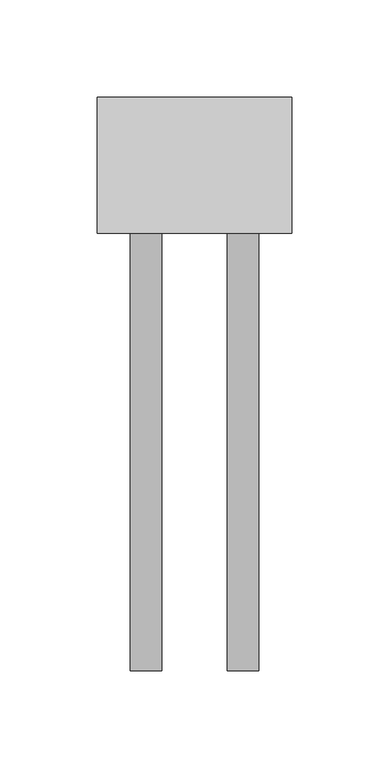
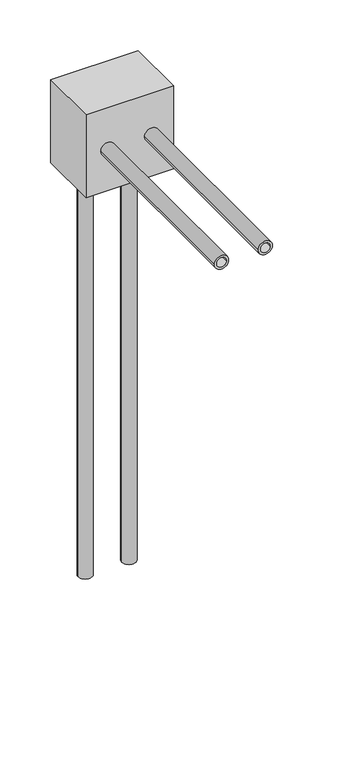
"""IFC4 building model written with IfcOpenShell, lengths in millimetres: pipe fitting geometry, RAUTITAN_Radiatorconnection box : RAUTITAN_Radiatorconnection box."""

from ifc_helpers import new_model, si_unit, point, frame, frame_2d, origin, origin_with_axes, place, context, project, spatial, polyline, circle_curve, trimmed, segment, composite_curve, outline, extrude, source, transform, mapped, element, save


def pipe_fitting_8ffa6d79(model_context):
    return source(origin(), model_context, "Body", "SweptSolid", [
        extrude(outline(composite_curve([segment(trimmed(circle_curve(frame_2d((540.0, 25.0)), 8.1), [point((540.0, 33.1))], [point((540.0, 16.9))], False, "CARTESIAN"), True, "CONTINUOUS"), segment(trimmed(circle_curve(frame_2d((540.0, 25.0)), 8.1), [point((540.0, 16.9))], [point((540.0, 33.1))], False, "CARTESIAN"), True, "CONTINUOUS")], self_intersect=False), holes=[composite_curve([segment(trimmed(circle_curve(frame_2d((540.0, 25.0)), 5.5), [point((540.0, 30.5))], [point((540.0, 19.5))], True, "CARTESIAN"), True, "CONTINUOUS"), segment(trimmed(circle_curve(frame_2d((540.0, 25.0)), 5.5), [point((540.0, 19.5))], [point((540.0, 30.5))], True, "CARTESIAN"), True, "CONTINUOUS")], self_intersect=False)]), frame((0.0, -270.0, 0.0), z_axis=(0.0, 1.0, 0.0), x_axis=(0.0, 0.0, 1.0)), (0.0, 0.0, 1.0), 225.0),
        extrude(outline(composite_curve([segment(trimmed(circle_curve(frame_2d((540.0, -25.0)), 8.1), [point((540.0, -16.9))], [point((540.0, -33.1))], False, "CARTESIAN"), True, "CONTINUOUS"), segment(trimmed(circle_curve(frame_2d((540.0, -25.0)), 8.1), [point((540.0, -33.1))], [point((540.0, -16.9))], False, "CARTESIAN"), True, "CONTINUOUS")], self_intersect=False), holes=[composite_curve([segment(trimmed(circle_curve(frame_2d((540.0, -25.0)), 5.5), [point((540.0, -19.5))], [point((540.0, -30.5))], True, "CARTESIAN"), True, "CONTINUOUS"), segment(trimmed(circle_curve(frame_2d((540.0, -25.0)), 5.5), [point((540.0, -30.5))], [point((540.0, -19.5))], True, "CARTESIAN"), True, "CONTINUOUS")], self_intersect=False)]), frame((0.0, -270.0, 0.0), z_axis=(0.0, 1.0, 0.0), x_axis=(0.0, 0.0, 1.0)), (0.0, 0.0, 1.0), 225.0),
        extrude(outline(composite_curve([segment(trimmed(circle_curve(frame_2d((25.0, 0.0)), 8.1), [point((16.9, 0.0))], [point((33.1, 0.0))], False, "CARTESIAN"), True, "CONTINUOUS"), segment(trimmed(circle_curve(frame_2d((25.0, 0.0)), 8.1), [point((33.1, 0.0))], [point((16.9, 0.0))], False, "CARTESIAN"), True, "CONTINUOUS")], self_intersect=False), holes=[composite_curve([segment(trimmed(circle_curve(frame_2d((25.0, 0.0)), 5.5), [point((19.5, 0.0))], [point((30.5, 0.0))], True, "CARTESIAN"), True, "CONTINUOUS"), segment(trimmed(circle_curve(frame_2d((25.0, 0.0)), 5.5), [point((30.5, 0.0))], [point((19.5, 0.0))], True, "CARTESIAN"), True, "CONTINUOUS")], self_intersect=False)]), origin_with_axes(), (0.0, 0.0, 1.0), 490.0),
        extrude(outline(composite_curve([segment(trimmed(circle_curve(frame_2d((-25.0, 0.0)), 8.1), [point((-33.1, 0.0))], [point((-16.9, 0.0))], False, "CARTESIAN"), True, "CONTINUOUS"), segment(trimmed(circle_curve(frame_2d((-25.0, 0.0)), 8.1), [point((-16.9, 0.0))], [point((-33.1, 0.0))], False, "CARTESIAN"), True, "CONTINUOUS")], self_intersect=False), holes=[composite_curve([segment(trimmed(circle_curve(frame_2d((-25.0, 0.0)), 5.5), [point((-30.5, 0.0))], [point((-19.5, 0.0))], True, "CARTESIAN"), True, "CONTINUOUS"), segment(trimmed(circle_curve(frame_2d((-25.0, 0.0)), 5.5), [point((-19.5, 0.0))], [point((-30.5, 0.0))], True, "CARTESIAN"), True, "CONTINUOUS")], self_intersect=False)]), origin_with_axes(), (0.0, 0.0, 1.0), 490.0),
        extrude(outline(polyline([(50.0, 25.0), (50.0, -45.0), (-50.0, -45.0), (-50.0, 25.0), (50.0, 25.0)])), frame((0.0, 0.0, 490.0), z_axis=(0.0, 0.0, 1.0), x_axis=(1.0, 0.0, 0.0)), (0.0, 0.0, 1.0), 100.0),
    ])


if __name__ == "__main__":
    model = new_model("IFC4")
    model_context = context("Model", 3, world=origin())
    ifc_project = project(units=[si_unit("LENGTHUNIT", "METRE", prefix="MILLI")], contexts=[model_context])
    site = spatial("IfcSite", under=ifc_project)
    building = spatial("IfcBuilding", under=site)
    placement = place(None, origin())
    pipe_fitting_shape = pipe_fitting_8ffa6d79(model_context)
    element("IfcPipeFitting", 1, ObjectType="RAUTITAN_Radiatorconnection box : RAUTITAN_Radiatorconnection box", at=placement, inside=building, context=model_context, shape_type="MappedRepresentation", body=[
        mapped(pipe_fitting_shape, transform((0.0, 0.0, 0.0), x_axis=(1.0, 0.0, 0.0), y_axis=(0.0, 1.0, 0.0), z_axis=(0.0, 0.0, 1.0))),
    ])
    save(model, "model.ifc")
